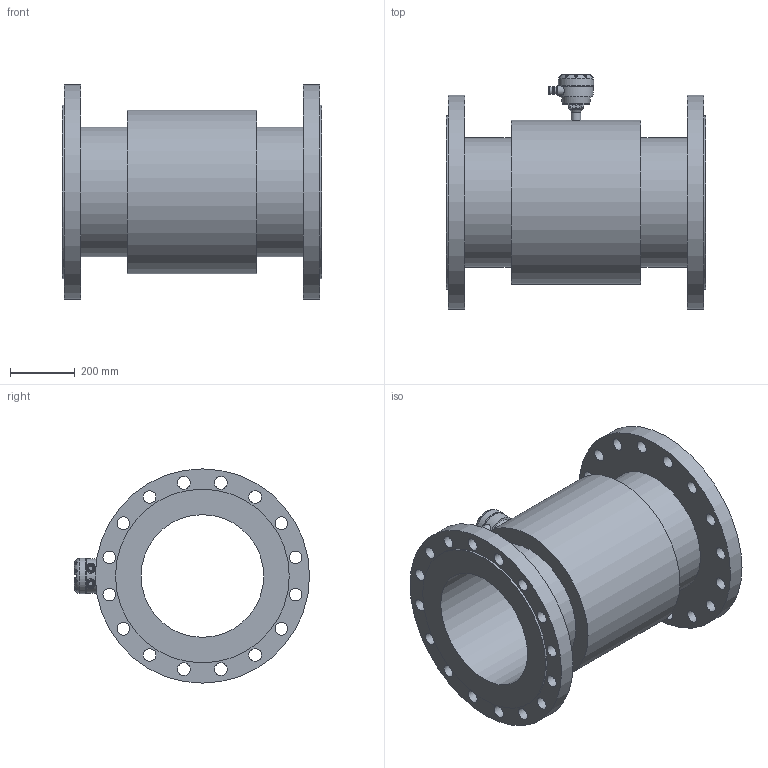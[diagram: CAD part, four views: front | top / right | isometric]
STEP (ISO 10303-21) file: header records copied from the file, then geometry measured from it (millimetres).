
FILE_DESCRIPTION (( 'STEP AP203' ), '1' );
FILE_NAME ('KROHNE_OPTIFLUX_2-4000W_DIN2635_DN400_PN40.STEP', '2011-04-26T11:26:48', ( '' ), ( '' ), 'SwSTEP 2.0', 'SolidWorks 2010', '' );
FILE_SCHEMA (( 'CONFIG_CONTROL_DESIGN' ));
Length unit declared in the file: millimetre
Products named in the file (1): KROHNE_OPTIFLUX_2-4000W_DIN2635_DN400_PN40
Bounding box: 800 x 723.99 x 660 mm (x, y, z)
Volume: 62173147.6 mm3; surface area: 3442847.5 mm2
Topology: 14 solids, 14 shells, 359 faces, 899 edges, 590 vertices
Faces by surface type: plane 158, cylinder 111, bspline 53, torus 18, sphere 13, cone 6
Full cylindrical faces by diameter (mm): 4 x4, 6.6 x8, 13 x2, 20 x2, 23.5 x4, 29 x1, 30 x2, 39 x32, 84 x2, 109 x1, 378 x1, 398 x2, 505 x1, 535 x2, 660 x2
Entity records: 14523 total; most frequent: CARTESIAN_POINT 6576, ORIENTED_EDGE 1522, DIRECTION 1509, EDGE_CURVE 761, AXIS2_PLACEMENT_3D 573, EDGE_LOOP 566, VERTEX_POINT 545, FACE_OUTER_BOUND 442
